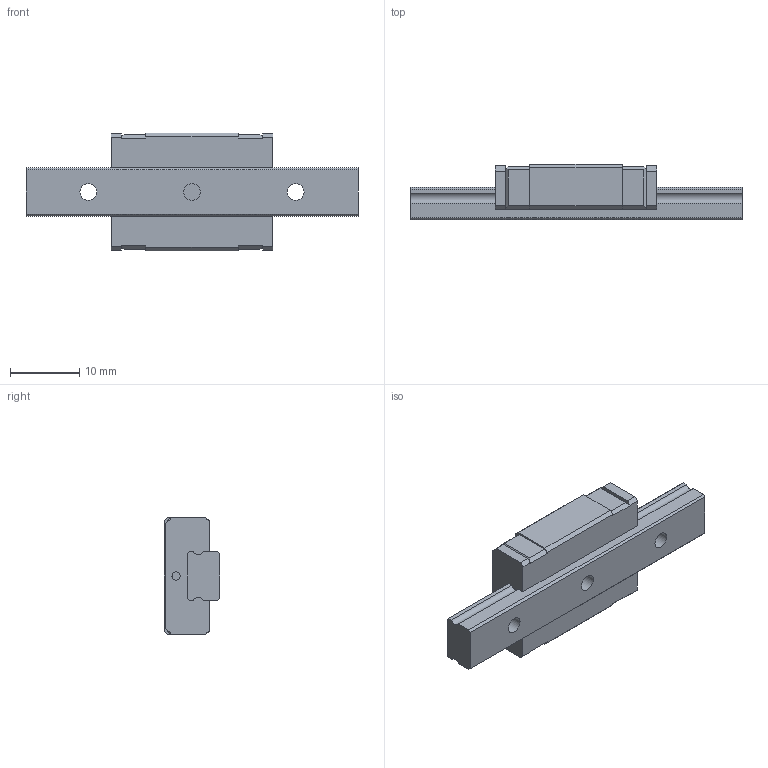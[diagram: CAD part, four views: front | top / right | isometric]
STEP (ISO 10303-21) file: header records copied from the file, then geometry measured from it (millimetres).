
FILE_DESCRIPTION(/* description */ ('STEP AP203'),/* implementation_level */ '2;1');
FILE_NAME(/* name */ 'RSX7MUU-48LM_G9_0_Without grease nipple_12-3_0_0_0_1',/* time_stamp */ '2024-05-21T10:25:11+02:00',/* author */ ('License CC BY-ND 4.0'),/* organization */ ('CADENAS'),/* preprocessor_version */ 'ST-DEVELOPER v19.3',/* originating_system */ 'PARTsolutions',/* authorisation */ ' ');
FILE_SCHEMA (('CONFIG_CONTROL_DESIGN'));
Length unit declared in the file: millimetre
Products named in the file (3): RSX7MUU-48LM_G9_0_Without grease nipple_12-3_0_0_0_1; RSX7M489 Track; RSX7MUU1 Slider
Assembly tree (2 placements, depth 2):
  RSX7MUU-48LM_G9_0_Without grease nipple_12-3_0_0_0_1
    RSX7M489 Track
    RSX7MUU1 Slider
Bounding box: 48 x 8 x 17 mm (x, y, z)
Volume: 3367.4 mm3; surface area: 2822.6 mm2
Topology: 2 solids, 2 shells, 97 faces, 260 edges, 172 vertices
Faces by surface type: plane 73, cylinder 16, cone 8
Full cylindrical faces by diameter (mm): 1.2 x2, 1.567 x4, 2.4 x3, 4.2 x3
Entity records: 2929 total; most frequent: CARTESIAN_POINT 500, DIRECTION 468, ORIENTED_EDGE 464, EDGE_CURVE 232, LINE 196, VECTOR 196, VERTEX_POINT 168, AXIS2_PLACEMENT_3D 136
